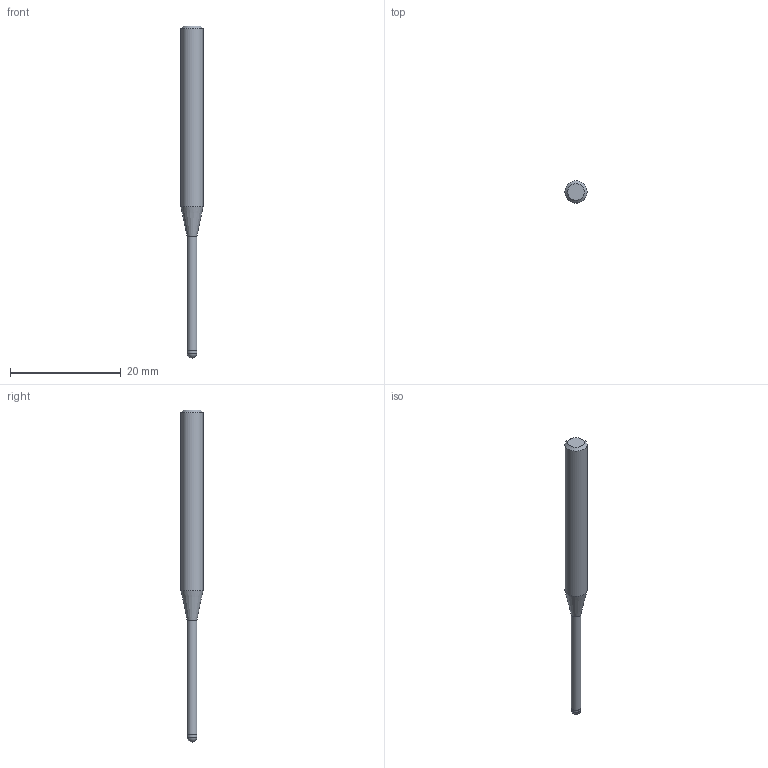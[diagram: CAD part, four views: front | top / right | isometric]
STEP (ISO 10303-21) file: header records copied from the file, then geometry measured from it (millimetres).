
FILE_DESCRIPTION((''),'2;1');
FILE_NAME('C:\Users\nsx150\AppData\Local\Temp\Mastercam 2021\ARV7HD45SN\TEMP.step','2023-06-13T16:37:09',(''),(''),'STEP Write','Mastercam 2021 ... CNC Software, Inc.','');
FILE_SCHEMA(('AUTOMOTIVE_DESIGN'));
Length unit declared in the file: millimetre
Products named in the file (1): None
Bounding box: 4 x 4 x 60 mm (x, y, z)
Volume: 497.2 mm3; surface area: 593.7 mm2
Topology: 2 solids, 2 shells, 9 faces, 14 edges, 8 vertices
Faces by surface type: plane 3, cylinder 3, cone 2, sphere 1
Full cylindrical faces by diameter (mm): 1.74 x1, 1.8 x1, 4 x1
Entity records: 211 total; most frequent: DIRECTION 36, CARTESIAN_POINT 25, AXIS2_PLACEMENT_3D 18, ORIENTED_EDGE 14, EDGE_LOOP 14, STYLED_ITEM 12, ADVANCED_FACE 9, FACE_BOUND 8
